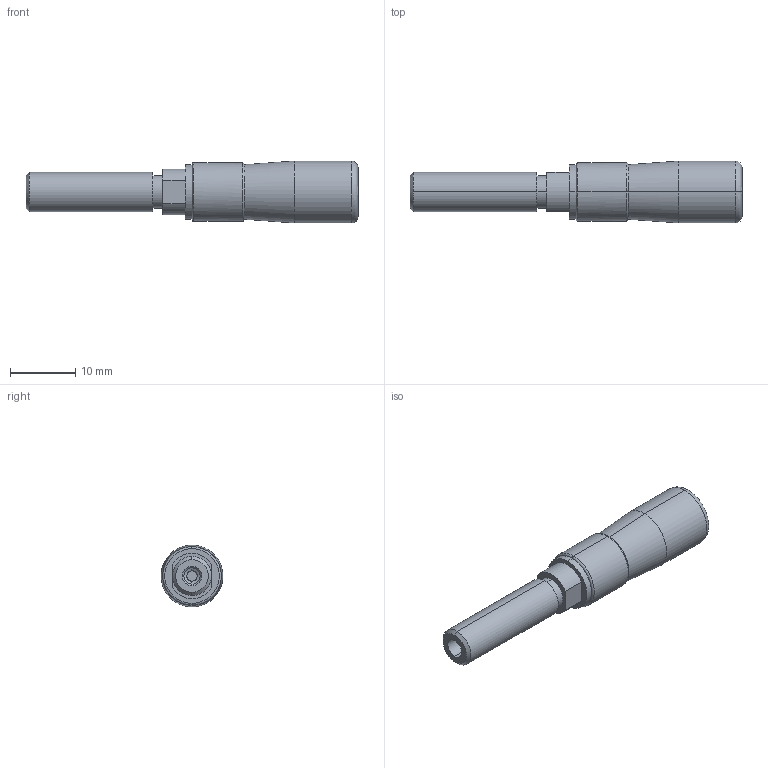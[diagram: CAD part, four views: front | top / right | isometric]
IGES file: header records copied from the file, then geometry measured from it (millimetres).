
Start section: ------------------------------------------------------------------------
Global section: file name: D:\ICADMX\tmp\trans3d_spg\TGMX25.1844.RBP007RCA_23181.igs; native system: spGate; preprocessor: ver11.3.7; author: Unknown; organization: Unknown; date: 150330.151221; units: millimetre
Bounding box: 51 x 9.48 x 9.5 mm (x, y, z)
Volume: 2335.3 mm3; surface area: 1575.4 mm2
Topology: 1 solids, 1 shells, 44 faces, 89 edges, 52 vertices
Faces by surface type: bspline 44
